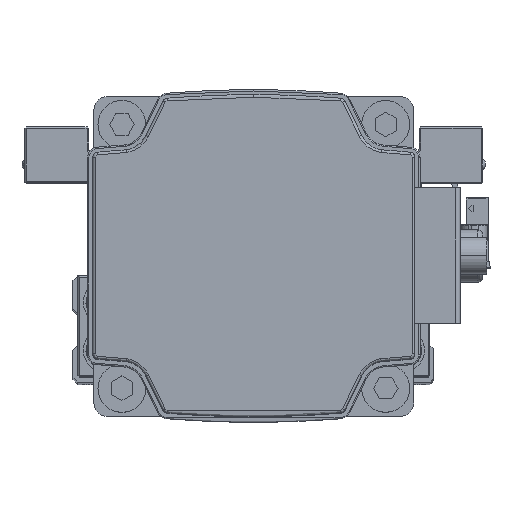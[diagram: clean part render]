
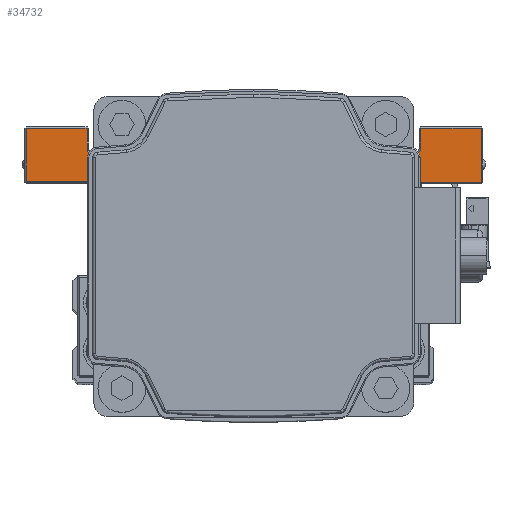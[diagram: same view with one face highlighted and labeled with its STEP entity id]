
A CAD part, top view. The second image highlights one B-rep face of the part: STEP entity #34732.
In plain terms, the highlighted planar face has unit normal (0, 0, 1) as drawn and (1, 0, 0) by its records, which use the part's own axes.
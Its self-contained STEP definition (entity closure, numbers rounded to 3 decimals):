
#754 = CARTESIAN_POINT ( 'NONE',  ( 45., 7.8, 42.7 ) ) ;
#796 = DIRECTION ( 'NONE',  ( 0., 0., 1. ) ) ;
#820 = VECTOR ( 'NONE', #17031, 1000. ) ;
#980 = DIRECTION ( 'NONE',  ( 0., 0., 1. ) ) ;
#2027 = ORIENTED_EDGE ( 'NONE', *, *, #33175, .T. ) ;
#2249 = CARTESIAN_POINT ( 'NONE',  ( 45., 12.7, -30. ) ) ;
#2444 = VERTEX_POINT ( 'NONE', #11622 ) ;
#2534 = VERTEX_POINT ( 'NONE', #9019 ) ;
#2580 = CIRCLE ( 'NONE', #24829, 1.3 ) ;
#3410 = VERTEX_POINT ( 'NONE', #21238 ) ;
#4056 = EDGE_LOOP ( 'NONE', ( #2027, #8987, #8773, #20897, #20316, #32916, #34278, #11215, #33613, #6764, #24348, #38843, #38452, #33056 ) ) ;
#4190 = CARTESIAN_POINT ( 'NONE',  ( 45., -8.2, -20. ) ) ;
#4353 = CARTESIAN_POINT ( 'NONE',  ( 45., 7.5, -19.7 ) ) ;
#4678 = VECTOR ( 'NONE', #20639, 1000. ) ;
#4873 = DIRECTION ( 'NONE',  ( 0., -1., 0. ) ) ;
#4898 = CARTESIAN_POINT ( 'NONE',  ( 45., 7.5, 43. ) ) ;
#4939 = EDGE_CURVE ( 'NONE', #3410, #17627, #19998, .T. ) ;
#5002 = DIRECTION ( 'NONE',  ( 0., -1., 0. ) ) ;
#5631 = VERTEX_POINT ( 'NONE', #13285 ) ;
#6163 = VERTEX_POINT ( 'NONE', #34939 ) ;
#6258 = LINE ( 'NONE', #18399, #32424 ) ;
#6298 = CARTESIAN_POINT ( 'NONE',  ( 45., 7.5, -20. ) ) ;
#6764 = ORIENTED_EDGE ( 'NONE', *, *, #20436, .T. ) ;
#6911 = LINE ( 'NONE', #19051, #23723 ) ;
#7046 = VECTOR ( 'NONE', #39201, 1000. ) ;
#7385 = EDGE_CURVE ( 'NONE', #33558, #12324, #6911, .T. ) ;
#7867 = VECTOR ( 'NONE', #34443, 1000. ) ;
#8481 = CARTESIAN_POINT ( 'NONE',  ( 45., 17.7, -20. ) ) ;
#8504 = AXIS2_PLACEMENT_3D ( 'NONE', #38830, #11532, #23690 ) ;
#8773 = ORIENTED_EDGE ( 'NONE', *, *, #11566, .T. ) ;
#8987 = ORIENTED_EDGE ( 'NONE', *, *, #26211, .T. ) ;
#9019 = CARTESIAN_POINT ( 'NONE',  ( 45., 7.5, -42.7 ) ) ;
#9336 = LINE ( 'NONE', #21481, #20495 ) ;
#10141 = LINE ( 'NONE', #22296, #7867 ) ;
#10752 = VECTOR ( 'NONE', #4873, 1000. ) ;
#11215 = ORIENTED_EDGE ( 'NONE', *, *, #18702, .T. ) ;
#11532 = DIRECTION ( 'NONE',  ( -1., 0., 0. ) ) ;
#11566 = EDGE_CURVE ( 'NONE', #2534, #24848, #14279, .T. ) ;
#11622 = CARTESIAN_POINT ( 'NONE',  ( 45., 14., -31.3 ) ) ;
#11779 = EDGE_CURVE ( 'NONE', #16981, #20756, #6258, .T. ) ;
#12129 = EDGE_CURVE ( 'NONE', #6163, #2444, #20145, .T. ) ;
#12324 = VERTEX_POINT ( 'NONE', #15322 ) ;
#12645 = EDGE_CURVE ( 'NONE', #17627, #22705, #14898, .T. ) ;
#13285 = CARTESIAN_POINT ( 'NONE',  ( 45., -8.2, -19.7 ) ) ;
#13727 = CARTESIAN_POINT ( 'NONE',  ( 45., -8.2, 19.7 ) ) ;
#14279 = LINE ( 'NONE', #26432, #34970 ) ;
#14898 = LINE ( 'NONE', #27048, #7046 ) ;
#15322 = CARTESIAN_POINT ( 'NONE',  ( 45., 17.7, 31.3 ) ) ;
#15940 = CARTESIAN_POINT ( 'NONE',  ( 45., 14., -30. ) ) ;
#16115 = LINE ( 'NONE', #28263, #22545 ) ;
#16343 = DIRECTION ( 'NONE',  ( 0., 0., -1. ) ) ;
#16615 = CARTESIAN_POINT ( 'NONE',  ( 45., 7.8, 19.7 ) ) ;
#16981 = VERTEX_POINT ( 'NONE', #2249 ) ;
#17031 = DIRECTION ( 'NONE',  ( 0., 0., -1. ) ) ;
#17627 = VERTEX_POINT ( 'NONE', #754 ) ;
#17936 = VECTOR ( 'NONE', #16343, 1000. ) ;
#18399 = CARTESIAN_POINT ( 'NONE',  ( 45., 12.7, 30. ) ) ;
#18439 = DIRECTION ( 'NONE',  ( -1., 0., 0. ) ) ;
#18702 = EDGE_CURVE ( 'NONE', #20756, #33558, #25703, .T. ) ;
#18838 = EDGE_CURVE ( 'NONE', #22705, #25807, #9336, .T. ) ;
#19051 = CARTESIAN_POINT ( 'NONE',  ( 45., 7.5, 31.3 ) ) ;
#19095 = VECTOR ( 'NONE', #5002, 1000. ) ;
#19998 = LINE ( 'NONE', #32149, #10752 ) ;
#20145 = LINE ( 'NONE', #32283, #19095 ) ;
#20316 = ORIENTED_EDGE ( 'NONE', *, *, #12129, .T. ) ;
#20436 = EDGE_CURVE ( 'NONE', #12324, #3410, #16115, .T. ) ;
#20495 = VECTOR ( 'NONE', #33616, 1000. ) ;
#20639 = DIRECTION ( 'NONE',  ( 0., 0., 1. ) ) ;
#20756 = VERTEX_POINT ( 'NONE', #21021 ) ;
#20897 = ORIENTED_EDGE ( 'NONE', *, *, #27967, .T. ) ;
#21021 = CARTESIAN_POINT ( 'NONE',  ( 45., 12.7, 30. ) ) ;
#21238 = CARTESIAN_POINT ( 'NONE',  ( 45., 17.7, 42.7 ) ) ;
#21448 = FACE_OUTER_BOUND ( 'NONE', #4056, .T. ) ;
#21481 = CARTESIAN_POINT ( 'NONE',  ( 45., 7.5, 19.7 ) ) ;
#22030 = CARTESIAN_POINT ( 'NONE',  ( 45., 17.7, -42.7 ) ) ;
#22296 = CARTESIAN_POINT ( 'NONE',  ( 45., 7.5, -19.7 ) ) ;
#22545 = VECTOR ( 'NONE', #980, 1000. ) ;
#22705 = VERTEX_POINT ( 'NONE', #16615 ) ;
#23690 = DIRECTION ( 'NONE',  ( 0., 0., 1. ) ) ;
#23723 = VECTOR ( 'NONE', #31195, 1000. ) ;
#24002 = EDGE_CURVE ( 'NONE', #2444, #16981, #2580, .T. ) ;
#24348 = ORIENTED_EDGE ( 'NONE', *, *, #4939, .T. ) ;
#24829 = AXIS2_PLACEMENT_3D ( 'NONE', #15940, #28082, #796 ) ;
#24848 = VERTEX_POINT ( 'NONE', #22030 ) ;
#25703 = CIRCLE ( 'NONE', #8504, 1.3 ) ;
#25785 = VERTEX_POINT ( 'NONE', #4353 ) ;
#25807 = VERTEX_POINT ( 'NONE', #13727 ) ;
#26211 = EDGE_CURVE ( 'NONE', #25785, #2534, #32176, .T. ) ;
#26432 = CARTESIAN_POINT ( 'NONE',  ( 45., 7.5, -42.7 ) ) ;
#27048 = CARTESIAN_POINT ( 'NONE',  ( 45., 7.8, 20. ) ) ;
#27967 = EDGE_CURVE ( 'NONE', #24848, #6163, #35766, .T. ) ;
#28082 = DIRECTION ( 'NONE',  ( -1., 0., 0. ) ) ;
#28263 = CARTESIAN_POINT ( 'NONE',  ( 45., 17.7, -20. ) ) ;
#30545 = DIRECTION ( 'NONE',  ( 0., 0., 1. ) ) ;
#30586 = DIRECTION ( 'NONE',  ( 0., 0., 1. ) ) ;
#30992 = CARTESIAN_POINT ( 'NONE',  ( 45., 14., 31.3 ) ) ;
#31195 = DIRECTION ( 'NONE',  ( 0., 1., 0. ) ) ;
#31455 = LINE ( 'NONE', #4190, #17936 ) ;
#31920 = EDGE_CURVE ( 'NONE', #25807, #5631, #31455, .T. ) ;
#32149 = CARTESIAN_POINT ( 'NONE',  ( 45., 7.5, 42.7 ) ) ;
#32176 = LINE ( 'NONE', #4898, #820 ) ;
#32283 = CARTESIAN_POINT ( 'NONE',  ( 45., 7.5, -31.3 ) ) ;
#32424 = VECTOR ( 'NONE', #30545, 1000. ) ;
#32916 = ORIENTED_EDGE ( 'NONE', *, *, #24002, .T. ) ;
#33056 = ORIENTED_EDGE ( 'NONE', *, *, #31920, .T. ) ;
#33175 = EDGE_CURVE ( 'NONE', #5631, #25785, #10141, .T. ) ;
#33558 = VERTEX_POINT ( 'NONE', #30992 ) ;
#33582 = PLANE ( 'NONE',  #35226 ) ;
#33613 = ORIENTED_EDGE ( 'NONE', *, *, #7385, .T. ) ;
#33616 = DIRECTION ( 'NONE',  ( 0., -1., 0. ) ) ;
#34278 = ORIENTED_EDGE ( 'NONE', *, *, #11779, .T. ) ;
#34443 = DIRECTION ( 'NONE',  ( 0., 1., 0. ) ) ;
#34732 = ADVANCED_FACE ( 'NONE', ( #21448 ), #33582, .F. ) ;
#34939 = CARTESIAN_POINT ( 'NONE',  ( 45., 17.7, -31.3 ) ) ;
#34970 = VECTOR ( 'NONE', #38577, 1000. ) ;
#35226 = AXIS2_PLACEMENT_3D ( 'NONE', #6298, #18439, #30586 ) ;
#35766 = LINE ( 'NONE', #8481, #4678 ) ;
#38452 = ORIENTED_EDGE ( 'NONE', *, *, #18838, .T. ) ;
#38577 = DIRECTION ( 'NONE',  ( 0., 1., 0. ) ) ;
#38830 = CARTESIAN_POINT ( 'NONE',  ( 45., 14., 30. ) ) ;
#38843 = ORIENTED_EDGE ( 'NONE', *, *, #12645, .T. ) ;
#39201 = DIRECTION ( 'NONE',  ( 0., 0., -1. ) ) ;
